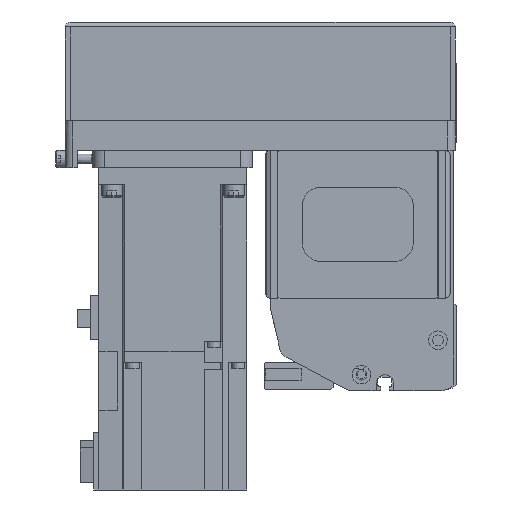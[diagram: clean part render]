
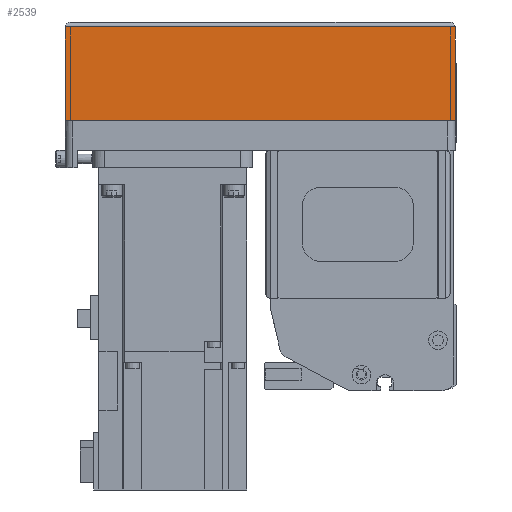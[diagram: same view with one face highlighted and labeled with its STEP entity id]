
A CAD part, left-side view. The second image highlights one B-rep face of the part: STEP entity #2539.
In plain terms, the highlighted planar face has unit normal (-1, 0, 0) as drawn and (0, 1, 0) by its records, which use the part's own axes.
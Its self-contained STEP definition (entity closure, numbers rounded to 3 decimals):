
#2539 = ADVANCED_FACE( '', ( #5665 ), #5666, .T. );
#5665 = FACE_OUTER_BOUND( '', #9344, .T. );
#5666 = PLANE( '', #9345 );
#9344 = EDGE_LOOP( '', ( #16618, #16619, #16620, #16621 ) );
#9345 = AXIS2_PLACEMENT_3D( '', #16622, #16623, #16624 );
#16618 = ORIENTED_EDGE( '', *, *, #23083, .F. );
#16619 = ORIENTED_EDGE( '', *, *, #23322, .F. );
#16620 = ORIENTED_EDGE( '', *, *, #22943, .T. );
#16621 = ORIENTED_EDGE( '', *, *, #23141, .T. );
#16622 = CARTESIAN_POINT( '', ( -158., 39., -50. ) );
#16623 = DIRECTION( '', ( 0., 1., 0. ) );
#16624 = DIRECTION( '', ( 0., 0., 1. ) );
#22943 = EDGE_CURVE( '', #28224, #28221, #28225, .T. );
#23083 = EDGE_CURVE( '', #28416, #28417, #28418, .T. );
#23141 = EDGE_CURVE( '', #28221, #28417, #28487, .T. );
#23322 = EDGE_CURVE( '', #28224, #28416, #28722, .T. );
#28221 = VERTEX_POINT( '', #36058 );
#28224 = VERTEX_POINT( '', #36062 );
#28225 = LINE( '', #36063, #36064 );
#28416 = VERTEX_POINT( '', #36365 );
#28417 = VERTEX_POINT( '', #36366 );
#28418 = LINE( '', #36367, #36368 );
#28487 = LINE( '', #36487, #36488 );
#28722 = LINE( '', #36876, #36877 );
#36058 = CARTESIAN_POINT( '', ( -158., 39., -12.1 ) );
#36062 = CARTESIAN_POINT( '', ( -158., 39., -50. ) );
#36063 = CARTESIAN_POINT( '', ( -158., 39., -50. ) );
#36064 = VECTOR( '', #41588, 1000. );
#36365 = CARTESIAN_POINT( '', ( 0., 39., -50. ) );
#36366 = CARTESIAN_POINT( '', ( 0., 39., -12.1 ) );
#36367 = CARTESIAN_POINT( '', ( 0., 39., -50. ) );
#36368 = VECTOR( '', #41736, 1000. );
#36487 = CARTESIAN_POINT( '', ( -158., 39., -12.1 ) );
#36488 = VECTOR( '', #41778, 1000. );
#36876 = CARTESIAN_POINT( '', ( -158., 39., -50. ) );
#36877 = VECTOR( '', #41963, 1000. );
#41588 = DIRECTION( '', ( 0., 0., 1. ) );
#41736 = DIRECTION( '', ( 0., 0., 1. ) );
#41778 = DIRECTION( '', ( 1., 0., 0. ) );
#41963 = DIRECTION( '', ( 1., 0., 0. ) );
